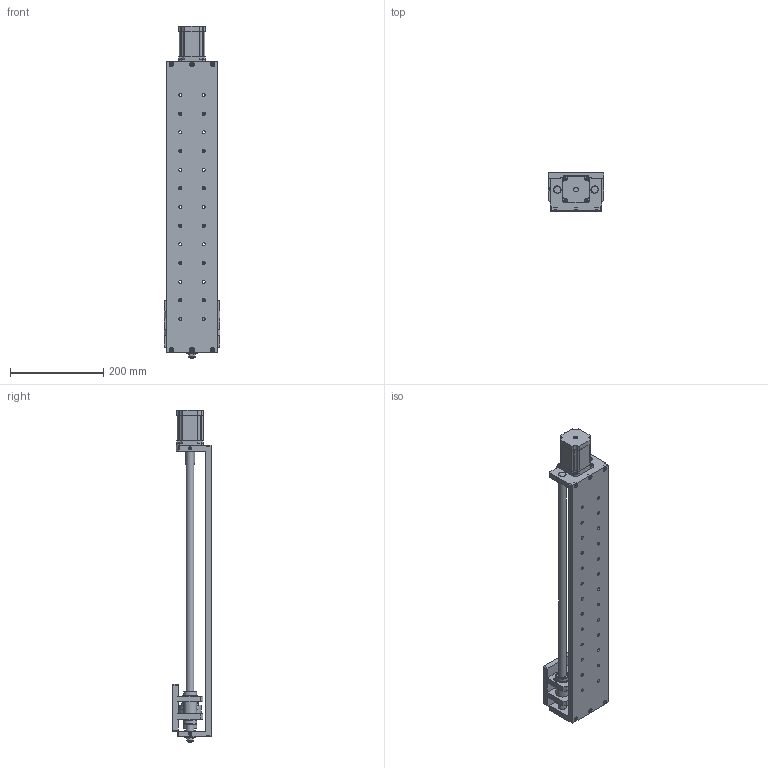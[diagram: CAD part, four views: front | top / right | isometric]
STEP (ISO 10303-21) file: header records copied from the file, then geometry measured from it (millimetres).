
FILE_DESCRIPTION(('STEP AP203'), '1');
FILE_NAME('PLLM-11-500 - ìîäóëü ëèíåéíîãî ïåðåìåùåíèÿ', '2022-05-04T13:02:35', (''), (''), 'ASCON STEP Converter 1.6', 'ASCON Math Kernel', '');
FILE_SCHEMA(('CONFIG_CONTROL_DESIGN'));
Length unit declared in the file: millimetre
Products named in the file (1): PLLM-11-500-000 СБ
Bounding box: 120 x 82 x 711.5 mm (x, y, z)
Volume: 1871482.2 mm3; surface area: 369522.9 mm2
Topology: 15 solids, 15 shells, 1588 faces, 3834 edges, 2419 vertices
Faces by surface type: plane 957, cylinder 266, cone 205, extrusion 134, sphere 14, torus 12
Full cylindrical faces by diameter (mm): 2 x8, 2.459 x2, 2.5 x2, 3 x2, 3.5 x2, 4 x15, 4.134 x9, 4.917 x23, 5.1 x4, 5.5 x6, 5.8 x2, 6.5 x14, 8 x4, 8.5 x14, 10 x11, 10.8 x4, 11 x4, 12 x14, 13 x1, 16 x10, 19.07 x8, 22 x3, 24 x4, 25 x2, 27 x4, 28 x7, 30 x1, 38.1 x1, 38.5 x1
Entity records: 61588 total; most frequent: CARTESIAN_POINT 13702, DIRECTION 6966, ORIENTED_EDGE 6730, EDGE_CURVE 3365, AXIS2_PLACEMENT_3D 2437, VERTEX_POINT 2341, EDGE_LOOP 2196, VECTOR 2092
